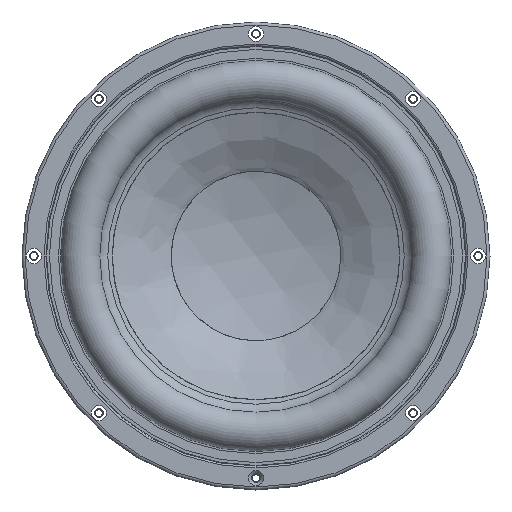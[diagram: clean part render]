
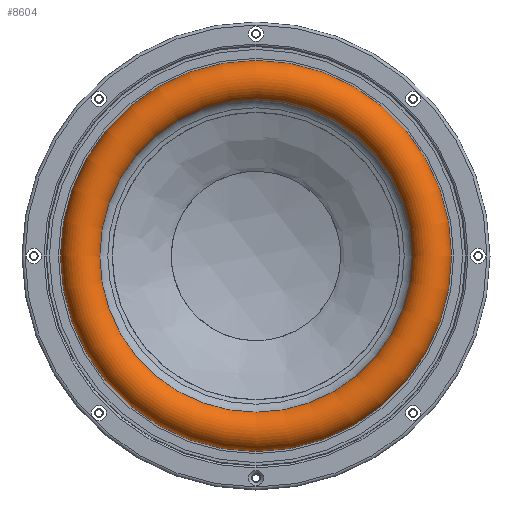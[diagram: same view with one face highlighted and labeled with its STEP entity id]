
A CAD part, left-side view. The second image highlights one B-rep face of the part: STEP entity #8604.
In plain terms, the highlighted toroidal (fillet/blend) face has major radius 103.5 mm and minor radius 12.002 mm.
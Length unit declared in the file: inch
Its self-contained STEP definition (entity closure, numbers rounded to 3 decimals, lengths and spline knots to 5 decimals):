
#28=TOROIDAL_SURFACE('',#9239,4.0748,0.47251);
#2312=FACE_OUTER_BOUND('',#2838,.T.);
#2838=EDGE_LOOP('',(#7271,#7272,#7273,#7274));
#3353=CIRCLE('',#9228,4.54672);
#3358=CIRCLE('',#9236,3.63214);
#3361=CIRCLE('',#9240,0.47251);
#4184=VERTEX_POINT('',#33244);
#4189=VERTEX_POINT('',#33259);
#5345=EDGE_CURVE('',#4184,#4184,#3353,.T.);
#5352=EDGE_CURVE('',#4189,#4189,#3358,.T.);
#5355=EDGE_CURVE('',#4184,#4189,#3361,.T.);
#7271=ORIENTED_EDGE('',*,*,#5345,.T.);
#7272=ORIENTED_EDGE('',*,*,#5355,.T.);
#7273=ORIENTED_EDGE('',*,*,#5352,.T.);
#7274=ORIENTED_EDGE('',*,*,#5355,.F.);
#8604=ADVANCED_FACE('',(#2312),#28,.T.);
#9228=AXIS2_PLACEMENT_3D('',#33245,#10879,#10880);
#9236=AXIS2_PLACEMENT_3D('',#33260,#10897,#10898);
#9239=AXIS2_PLACEMENT_3D('',#33264,#10903,#10904);
#9240=AXIS2_PLACEMENT_3D('',#33265,#10905,#10906);
#10879=DIRECTION('center_axis',(-1.,0.,0.));
#10880=DIRECTION('ref_axis',(0.,0.5,-0.866));
#10897=DIRECTION('center_axis',(1.,0.,0.));
#10898=DIRECTION('ref_axis',(0.,0.5,-0.866));
#10903=DIRECTION('center_axis',(1.,0.,0.));
#10904=DIRECTION('ref_axis',(0.,0.5,-0.866));
#10905=DIRECTION('center_axis',(0.,-0.866,
-0.5));
#10906=DIRECTION('ref_axis',(0.,-0.5,0.866));
#33244=CARTESIAN_POINT('',(0.12205,-2.27336,3.93757));
#33245=CARTESIAN_POINT('Origin',(0.12205,0.,
0.));
#33259=CARTESIAN_POINT('',(-0.01952,-1.81607,3.14552));
#33260=CARTESIAN_POINT('Origin',(-0.01952,0.,
0.));
#33264=CARTESIAN_POINT('Origin',(0.14574,0.,
0.));
#33265=CARTESIAN_POINT('Origin',(0.14574,-2.0374,3.52888));
